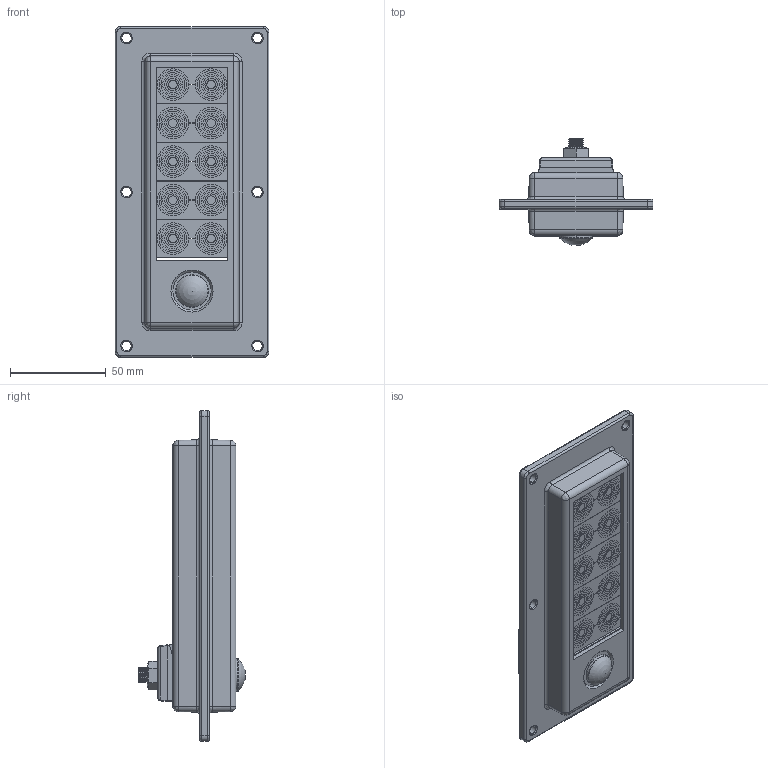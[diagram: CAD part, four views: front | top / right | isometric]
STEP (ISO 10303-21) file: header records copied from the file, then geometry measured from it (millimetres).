
FILE_DESCRIPTION (( 'STEP AP203' ), '1' );
FILE_NAME ('KML10-10.STEP', '2020-05-29T07:23:47', ( '' ), ( '' ), 'SwSTEP 2.0', 'SolidWorks 2016', '' );
FILE_SCHEMA (( 'CONFIG_CONTROL_DESIGN' ));
Length unit declared in the file: millimetre
Products named in the file (1): KML10-10
Bounding box: 80.5 x 56 x 173 mm (x, y, z)
Volume: 254159.2 mm3; surface area: 78065.4 mm2
Topology: 1 solids, 1 shells, 872 faces, 2187 edges, 1409 vertices
Faces by surface type: cylinder 453, plane 310, bspline 92, cone 12, torus 4, sphere 1
Entity records: 74994 total; most frequent: CARTESIAN_POINT 54839, ORIENTED_EDGE 4340, DIRECTION 4047, EDGE_CURVE 2170, AXIS2_PLACEMENT_3D 1538, VERTEX_POINT 1407, EDGE_LOOP 1045, VECTOR 971
